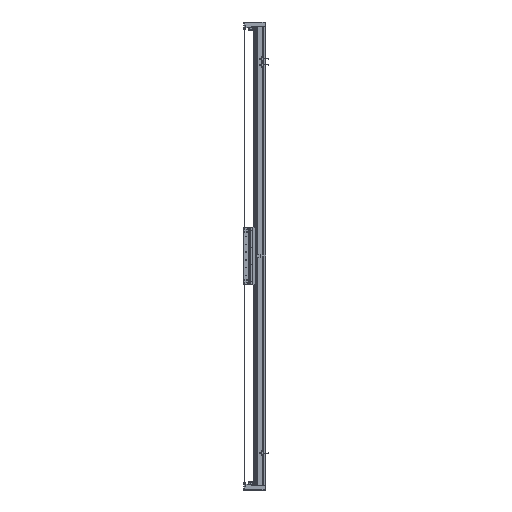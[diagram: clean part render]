
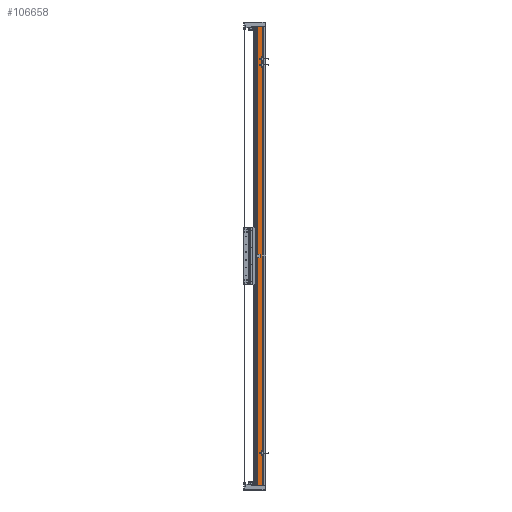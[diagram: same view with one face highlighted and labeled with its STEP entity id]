
A CAD part, left-side view. The second image highlights one B-rep face of the part: STEP entity #106658.
In plain terms, the highlighted planar face has unit normal (-1, 0, 0).
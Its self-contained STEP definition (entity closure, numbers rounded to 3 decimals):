
#4706 = VERTEX_POINT ( 'NONE', #123610 ) ;
#5001 = EDGE_CURVE ( 'NONE', #95961, #49641, #60332, .T. ) ;
#6895 = CARTESIAN_POINT ( 'NONE',  ( -82.5, 14.45, -990. ) ) ;
#27405 = ORIENTED_EDGE ( 'NONE', *, *, #5001, .F. ) ;
#29012 = CARTESIAN_POINT ( 'NONE',  ( -82.5, 14.45, 990. ) ) ;
#31178 = VERTEX_POINT ( 'NONE', #76818 ) ;
#31714 = PLANE ( 'NONE',  #67566 ) ;
#33399 = EDGE_CURVE ( 'NONE', #31178, #49641, #58451, .T. ) ;
#39452 = DIRECTION ( 'NONE',  ( 0., 0., -1. ) ) ;
#41157 = EDGE_CURVE ( 'NONE', #4706, #95961, #71217, .T. ) ;
#41519 = CARTESIAN_POINT ( 'NONE',  ( -82.5, 36.95, 990. ) ) ;
#44245 = DIRECTION ( 'NONE',  ( 0., -1., 0. ) ) ;
#47553 = CARTESIAN_POINT ( 'NONE',  ( -82.5, 14.45, 990. ) ) ;
#48776 = DIRECTION ( 'NONE',  ( 0., 0., -1. ) ) ;
#49112 = ORIENTED_EDGE ( 'NONE', *, *, #33399, .T. ) ;
#49641 = VERTEX_POINT ( 'NONE', #6895 ) ;
#51971 = VECTOR ( 'NONE', #44245, 1000. ) ;
#52509 = CARTESIAN_POINT ( 'NONE',  ( -82.5, 36.95, -990. ) ) ;
#53803 = DIRECTION ( 'NONE',  ( 0., -1., 0. ) ) ;
#58451 = LINE ( 'NONE', #52509, #78003 ) ;
#60332 = LINE ( 'NONE', #29012, #70939 ) ;
#61017 = ORIENTED_EDGE ( 'NONE', *, *, #78791, .T. ) ;
#67566 = AXIS2_PLACEMENT_3D ( 'NONE', #41519, #109984, #90455 ) ;
#70939 = VECTOR ( 'NONE', #39452, 1000. ) ;
#71217 = LINE ( 'NONE', #74265, #51971 ) ;
#74265 = CARTESIAN_POINT ( 'NONE',  ( -82.5, 36.95, 990. ) ) ;
#76818 = CARTESIAN_POINT ( 'NONE',  ( -82.5, 36.95, -990. ) ) ;
#78003 = VECTOR ( 'NONE', #53803, 1000. ) ;
#78791 = EDGE_CURVE ( 'NONE', #4706, #31178, #89838, .T. ) ;
#80069 = CARTESIAN_POINT ( 'NONE',  ( -82.5, 36.95, 990. ) ) ;
#84863 = EDGE_LOOP ( 'NONE', ( #49112, #27405, #115212, #61017 ) ) ;
#89838 = LINE ( 'NONE', #80069, #99738 ) ;
#90455 = DIRECTION ( 'NONE',  ( 0., 1., 0. ) ) ;
#95961 = VERTEX_POINT ( 'NONE', #47553 ) ;
#99738 = VECTOR ( 'NONE', #48776, 1000. ) ;
#106658 = ADVANCED_FACE ( 'NONE', ( #111279 ), #31714, .F. ) ;
#109984 = DIRECTION ( 'NONE',  ( 1., 0., 0. ) ) ;
#111279 = FACE_OUTER_BOUND ( 'NONE', #84863, .T. ) ;
#115212 = ORIENTED_EDGE ( 'NONE', *, *, #41157, .F. ) ;
#123610 = CARTESIAN_POINT ( 'NONE',  ( -82.5, 36.95, 990. ) ) ;
